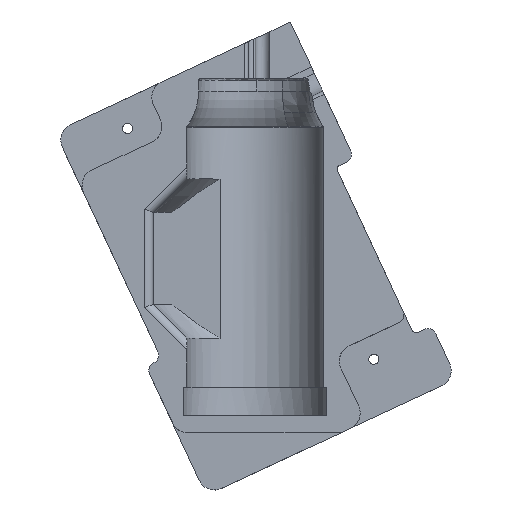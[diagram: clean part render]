
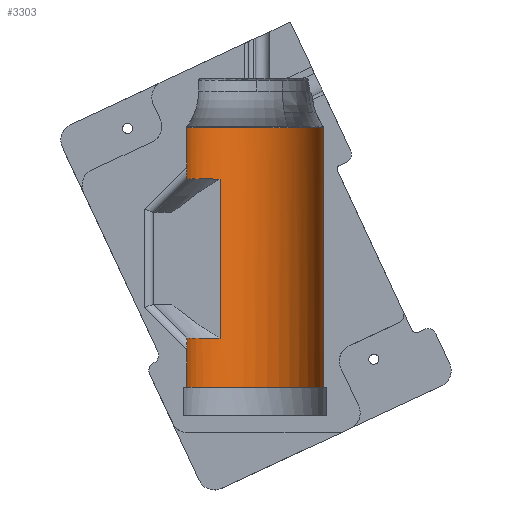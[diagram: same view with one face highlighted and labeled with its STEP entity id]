
A CAD part, top view. The second image highlights one B-rep face of the part: STEP entity #3303.
In plain terms, the highlighted cylindrical face has radius 40.845 mm (diameter 81.69 mm), a partial arc.
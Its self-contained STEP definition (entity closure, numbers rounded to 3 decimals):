
#3028=AXIS2_PLACEMENT_3D('Circle Axis2P3D',#3026,#3027,$) ;
#3116=AXIS2_PLACEMENT_3D('Circle Axis2P3D',#3114,#3115,$) ;
#3188=AXIS2_PLACEMENT_3D('Circle Axis2P3D',#3186,#3187,$) ;
#3258=AXIS2_PLACEMENT_3D('Cylinder Axis2P3D',#3255,#3256,#3257) ;
#3262=AXIS2_PLACEMENT_3D('Circle Axis2P3D',#3260,#3261,$) ;
#2850=CARTESIAN_POINT('Vertex',(-65.374,12.569,0.)) ;
#2960=CARTESIAN_POINT('Vertex',(16.316,-142.578,0.)) ;
#2973=CARTESIAN_POINT('Vertex',(16.316,12.569,0.)) ;
#2976=CARTESIAN_POINT('Line Origine',(16.316,-65.004,0.)) ;
#3026=CARTESIAN_POINT('Axis2P3D Location',(-24.529,-142.578,0.)) ;
#3030=CARTESIAN_POINT('Vertex',(-65.374,-142.578,0.)) ;
#3114=CARTESIAN_POINT('Axis2P3D Location',(-24.529,12.569,0.)) ;
#3183=CARTESIAN_POINT('Vertex',(-65.374,-113.109,0.)) ;
#3186=CARTESIAN_POINT('Axis2P3D Location',(-24.529,-113.109,0.)) ;
#3190=CARTESIAN_POINT('Vertex',(-45.584,-113.109,-35.)) ;
#3213=CARTESIAN_POINT('Line Origine',(-45.584,-65.609,-35.)) ;
#3217=CARTESIAN_POINT('Vertex',(-45.584,-18.109,-35.)) ;
#3255=CARTESIAN_POINT('Axis2P3D Location',(-24.529,-67.894,0.)) ;
#3260=CARTESIAN_POINT('Axis2P3D Location',(-24.529,-18.109,0.)) ;
#3264=CARTESIAN_POINT('Vertex',(-65.374,-18.109,0.)) ;
#3267=CARTESIAN_POINT('Line Origine',(-65.374,-65.004,0.)) ;
#3271=CARTESIAN_POINT('Vertex',(-65.374,-137.078,0.)) ;
#3274=CARTESIAN_POINT('Line Origine',(-65.374,-65.004,0.)) ;
#3279=CARTESIAN_POINT('Line Origine',(-65.374,-65.004,0.)) ;
#3283=CARTESIAN_POINT('Vertex',(-65.374,2.922,0.)) ;
#3286=CARTESIAN_POINT('Line Origine',(-65.374,-65.004,0.)) ;
#2977=DIRECTION('Vector Direction',(0.,1.,0.)) ;
#3027=DIRECTION('Axis2P3D Direction',(0.,1.,0.)) ;
#3115=DIRECTION('Axis2P3D Direction',(0.,-1.,0.)) ;
#3187=DIRECTION('Axis2P3D Direction',(0.,-1.,0.)) ;
#3214=DIRECTION('Vector Direction',(0.,1.,0.)) ;
#3256=DIRECTION('Axis2P3D Direction',(0.,1.,0.)) ;
#3257=DIRECTION('Axis2P3D XDirection',(-1.,0.,0.)) ;
#3261=DIRECTION('Axis2P3D Direction',(0.,1.,0.)) ;
#3268=DIRECTION('Vector Direction',(0.,1.,0.)) ;
#3275=DIRECTION('Vector Direction',(0.,1.,0.)) ;
#3280=DIRECTION('Vector Direction',(0.,1.,0.)) ;
#3287=DIRECTION('Vector Direction',(0.,1.,0.)) ;
#2978=VECTOR('Line Direction',#2977,1.) ;
#3215=VECTOR('Line Direction',#3214,1.) ;
#3269=VECTOR('Line Direction',#3268,1.) ;
#3276=VECTOR('Line Direction',#3275,1.) ;
#3281=VECTOR('Line Direction',#3280,1.) ;
#3288=VECTOR('Line Direction',#3287,1.) ;
#3292=ORIENTED_EDGE('',*,*,#3266,.F.) ;
#3293=ORIENTED_EDGE('',*,*,#3219,.F.) ;
#3294=ORIENTED_EDGE('',*,*,#3192,.F.) ;
#3295=ORIENTED_EDGE('',*,*,#3273,.T.) ;
#3296=ORIENTED_EDGE('',*,*,#3278,.F.) ;
#3297=ORIENTED_EDGE('',*,*,#3032,.F.) ;
#3298=ORIENTED_EDGE('',*,*,#2980,.F.) ;
#3299=ORIENTED_EDGE('',*,*,#3118,.T.) ;
#3300=ORIENTED_EDGE('',*,*,#3285,.F.) ;
#3301=ORIENTED_EDGE('',*,*,#3290,.T.) ;
#3303=ADVANCED_FACE('\X2\51E04F554F53\X0\.8',(#3302),#3259,.F.) ;
#3029=CIRCLE('generated circle',#3028,40.845) ;
#3117=CIRCLE('generated circle',#3116,40.845) ;
#3189=CIRCLE('generated circle',#3188,40.845) ;
#3263=CIRCLE('generated circle',#3262,40.845) ;
#3259=CYLINDRICAL_SURFACE('generated cylinder',#3258,40.845) ;
#2980=EDGE_CURVE('',#2974,#2961,#2979,.F.) ;
#3032=EDGE_CURVE('',#2961,#3031,#3029,.T.) ;
#3118=EDGE_CURVE('',#2974,#2851,#3117,.F.) ;
#3192=EDGE_CURVE('',#3184,#3191,#3189,.T.) ;
#3219=EDGE_CURVE('',#3191,#3218,#3216,.T.) ;
#3266=EDGE_CURVE('',#3218,#3265,#3263,.T.) ;
#3273=EDGE_CURVE('',#3184,#3272,#3270,.F.) ;
#3278=EDGE_CURVE('',#3031,#3272,#3277,.T.) ;
#3285=EDGE_CURVE('',#3284,#2851,#3282,.T.) ;
#3290=EDGE_CURVE('',#3284,#3265,#3289,.F.) ;
#3291=EDGE_LOOP('',(#3292,#3293,#3294,#3295,#3296,#3297,#3298,#3299,#3300,#3301)) ;
#3302=FACE_OUTER_BOUND('',#3291,.T.) ;
#2979=LINE('Line',#2976,#2978) ;
#3216=LINE('Line',#3213,#3215) ;
#3270=LINE('Line',#3267,#3269) ;
#3277=LINE('Line',#3274,#3276) ;
#3282=LINE('Line',#3279,#3281) ;
#3289=LINE('Line',#3286,#3288) ;
#2851=VERTEX_POINT('',#2850) ;
#2961=VERTEX_POINT('',#2960) ;
#2974=VERTEX_POINT('',#2973) ;
#3031=VERTEX_POINT('',#3030) ;
#3184=VERTEX_POINT('',#3183) ;
#3191=VERTEX_POINT('',#3190) ;
#3218=VERTEX_POINT('',#3217) ;
#3265=VERTEX_POINT('',#3264) ;
#3272=VERTEX_POINT('',#3271) ;
#3284=VERTEX_POINT('',#3283) ;
